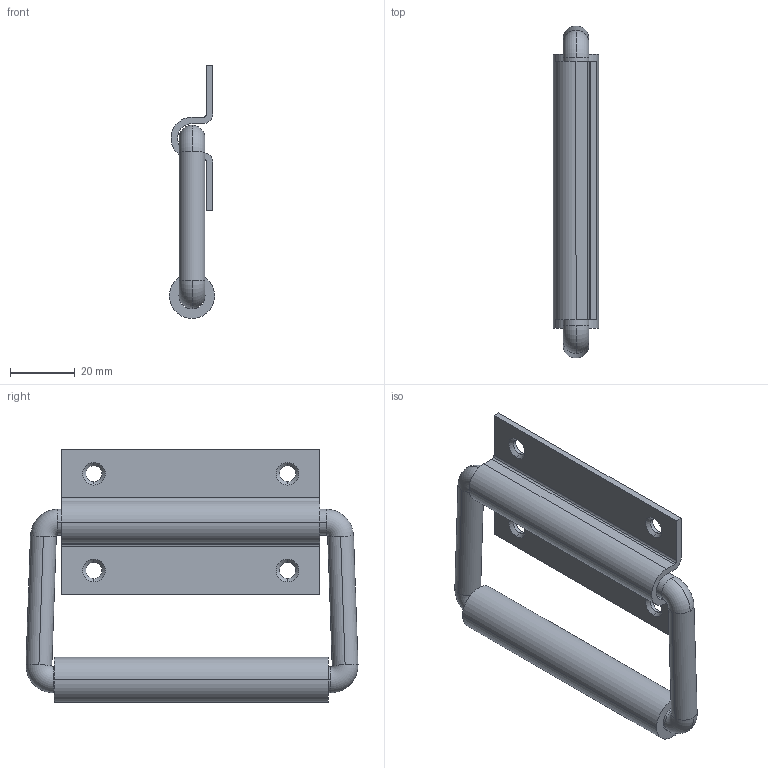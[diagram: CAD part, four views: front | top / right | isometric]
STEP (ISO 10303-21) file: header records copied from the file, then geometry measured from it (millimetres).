
FILE_DESCRIPTION((''),'2;1');
FILE_NAME('3119.stp','2023-10-09T14:32:24',(''),(''),'Mechanical Desktop 2006','Mechanical Desktop 2006',', , ');
FILE_SCHEMA(('CONFIG_CONTROL_DESIGN'));
Length unit declared in the file: millimetre
Products named in the file (4): 3119.04; OBERTEIL KISTENG 1056; BUGEL ISOLIRUNG 1056; BUGEL 1056
Assembly tree (3 placements, depth 2):
  3119.04
    OBERTEIL KISTENG 1056
    BUGEL ISOLIRUNG 1056
    BUGEL 1056
Bounding box: 14 x 102.87 x 78.38 mm (x, y, z)
Volume: 30499.6 mm3; surface area: 22548.4 mm2
Topology: 3 solids, 3 shells, 66 faces, 172 edges, 112 vertices
Faces by surface type: cylinder 34, plane 16, cone 8, torus 8
Entity records: 2229 total; most frequent: DIRECTION 412, CARTESIAN_POINT 354, ORIENTED_EDGE 344, EDGE_CURVE 172, AXIS2_PLACEMENT_3D 170, VERTEX_POINT 112, CIRCLE 100, EDGE_LOOP 76
